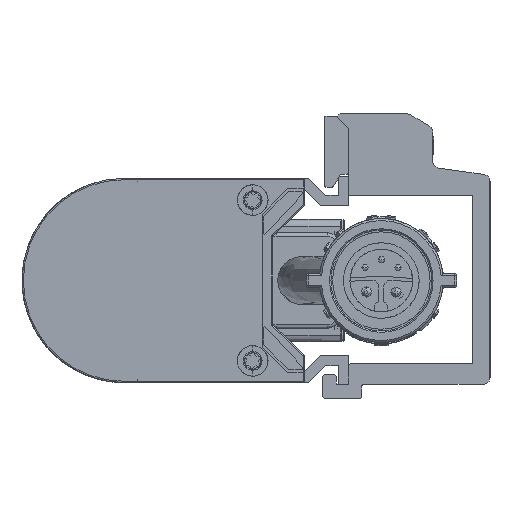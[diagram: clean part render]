
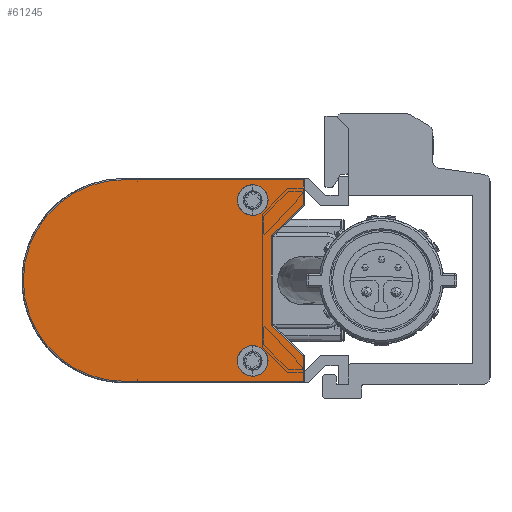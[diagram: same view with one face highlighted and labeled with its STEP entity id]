
A CAD part, left-side view. The second image highlights one B-rep face of the part: STEP entity #61245.
In plain terms, the highlighted planar face has unit normal (-1, 0, 0).
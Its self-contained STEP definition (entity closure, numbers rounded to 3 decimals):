
#359 = CARTESIAN_POINT ( 'NONE',  ( -750., 14.134, -9.55 ) ) ;
#615 = EDGE_CURVE ( 'NONE', #63553, #12300, #34675, .T. ) ;
#1647 = CIRCLE ( 'NONE', #50920, 2.25 ) ;
#3103 = EDGE_LOOP ( 'NONE', ( #57607, #13470 ) ) ;
#3741 = CARTESIAN_POINT ( 'NONE',  ( -750., 6.7, 14.8 ) ) ;
#3957 = FACE_BOUND ( 'NONE', #12427, .T. ) ;
#4220 = EDGE_CURVE ( 'NONE', #43060, #14392, #26542, .T. ) ;
#4520 = VERTEX_POINT ( 'NONE', #7046 ) ;
#4706 = EDGE_CURVE ( 'NONE', #56313, #48163, #20625, .T. ) ;
#4824 = DIRECTION ( 'NONE',  ( 0., 1., 0. ) ) ;
#4927 = FACE_BOUND ( 'NONE', #3103, .T. ) ;
#5455 = DIRECTION ( 'NONE',  ( 0., 0., 1. ) ) ;
#5512 = VECTOR ( 'NONE', #5455, 1000. ) ;
#5570 = DIRECTION ( 'NONE',  ( 0., 0., 1. ) ) ;
#6551 = LINE ( 'NONE', #50792, #9400 ) ;
#6963 = CIRCLE ( 'NONE', #38423, 2.25 ) ;
#7046 = CARTESIAN_POINT ( 'NONE',  ( -750., 33., 14.8 ) ) ;
#7586 = CARTESIAN_POINT ( 'NONE',  ( -750., 33., -14.8 ) ) ;
#7975 = CARTESIAN_POINT ( 'NONE',  ( -750., 14.134, -14.05 ) ) ;
#8175 = CIRCLE ( 'NONE', #50044, 2.25 ) ;
#8636 = DIRECTION ( 'NONE',  ( -1., 0., 0. ) ) ;
#9266 = ORIENTED_EDGE ( 'NONE', *, *, #40815, .T. ) ;
#9400 = VECTOR ( 'NONE', #26603, 1000. ) ;
#9702 = ORIENTED_EDGE ( 'NONE', *, *, #42378, .T. ) ;
#10394 = CARTESIAN_POINT ( 'NONE',  ( -750., 6.7, -14.8 ) ) ;
#11972 = DIRECTION ( 'NONE',  ( 0., 0., 1. ) ) ;
#12233 = AXIS2_PLACEMENT_3D ( 'NONE', #52271, #24363, #44310 ) ;
#12300 = VERTEX_POINT ( 'NONE', #44204 ) ;
#12427 = EDGE_LOOP ( 'NONE', ( #18139, #64632 ) ) ;
#13198 = EDGE_CURVE ( 'NONE', #57943, #56313, #29564, .T. ) ;
#13470 = ORIENTED_EDGE ( 'NONE', *, *, #45766, .F. ) ;
#13627 = LINE ( 'NONE', #48067, #58755 ) ;
#14392 = VERTEX_POINT ( 'NONE', #38223 ) ;
#15743 = AXIS2_PLACEMENT_3D ( 'NONE', #25340, #45290, #29581 ) ;
#16073 = CARTESIAN_POINT ( 'NONE',  ( -750., 6.7, 11.135 ) ) ;
#16113 = EDGE_CURVE ( 'NONE', #58408, #57399, #8175, .T. ) ;
#16338 = EDGE_CURVE ( 'NONE', #39467, #39930, #40643, .T. ) ;
#16475 = DIRECTION ( 'NONE',  ( 0., -0.718, -0.696 ) ) ;
#16808 = CARTESIAN_POINT ( 'NONE',  ( -750., 6.7, 14.8 ) ) ;
#18067 = CARTESIAN_POINT ( 'NONE',  ( -750., 6.7, -11.135 ) ) ;
#18139 = ORIENTED_EDGE ( 'NONE', *, *, #615, .F. ) ;
#18757 = DIRECTION ( 'NONE',  ( 0., 0., -1. ) ) ;
#20017 = AXIS2_PLACEMENT_3D ( 'NONE', #36621, #51637, #11972 ) ;
#20056 = CARTESIAN_POINT ( 'NONE',  ( -750., 14.134, -11.8 ) ) ;
#20625 = CIRCLE ( 'NONE', #12233, 0.4 ) ;
#21564 = ORIENTED_EDGE ( 'NONE', *, *, #16338, .F. ) ;
#23932 = ORIENTED_EDGE ( 'NONE', *, *, #62250, .F. ) ;
#24051 = FACE_OUTER_BOUND ( 'NONE', #59094, .T. ) ;
#24363 = DIRECTION ( 'NONE',  ( -1., 0., 0. ) ) ;
#25340 = CARTESIAN_POINT ( 'NONE',  ( -750., 27.25, 0. ) ) ;
#25573 = CARTESIAN_POINT ( 'NONE',  ( -750., 11.399, -6.415 ) ) ;
#26542 = LINE ( 'NONE', #51058, #53867 ) ;
#26603 = DIRECTION ( 'NONE',  ( 0., 0., 1. ) ) ;
#26842 = DIRECTION ( 'NONE',  ( 0., -1., 0. ) ) ;
#27940 = CARTESIAN_POINT ( 'NONE',  ( -750., 11.278, 6.703 ) ) ;
#28177 = DIRECTION ( 'NONE',  ( 0., 0., -1. ) ) ;
#28800 = CARTESIAN_POINT ( 'NONE',  ( -750., 14.134, -11.8 ) ) ;
#29564 = LINE ( 'NONE', #45913, #45611 ) ;
#29581 = DIRECTION ( 'NONE',  ( 0., 0., 1. ) ) ;
#30104 = LINE ( 'NONE', #10394, #5512 ) ;
#32343 = DIRECTION ( 'NONE',  ( 0., 1., 0. ) ) ;
#33264 = DIRECTION ( 'NONE',  ( 0., 0., -1. ) ) ;
#33589 = CARTESIAN_POINT ( 'NONE',  ( -750., 14.134, 11.8 ) ) ;
#34675 = CIRCLE ( 'NONE', #20017, 2.25 ) ;
#36300 = CARTESIAN_POINT ( 'NONE',  ( -750., 11.278, -6.703 ) ) ;
#36621 = CARTESIAN_POINT ( 'NONE',  ( -750., 14.134, 11.8 ) ) ;
#37467 = ORIENTED_EDGE ( 'NONE', *, *, #40868, .T. ) ;
#38223 = CARTESIAN_POINT ( 'NONE',  ( -750., 6.7, -14.8 ) ) ;
#38423 = AXIS2_PLACEMENT_3D ( 'NONE', #28800, #52990, #28177 ) ;
#38798 = CIRCLE ( 'NONE', #48227, 14.8 ) ;
#39075 = ORIENTED_EDGE ( 'NONE', *, *, #13198, .F. ) ;
#39467 = VERTEX_POINT ( 'NONE', #25573 ) ;
#39765 = ORIENTED_EDGE ( 'NONE', *, *, #4220, .T. ) ;
#39930 = VERTEX_POINT ( 'NONE', #36300 ) ;
#40643 = CIRCLE ( 'NONE', #45896, 0.4 ) ;
#40815 = EDGE_CURVE ( 'NONE', #58467, #4520, #57176, .T. ) ;
#40868 = EDGE_CURVE ( 'NONE', #57943, #58467, #13627, .T. ) ;
#41387 = LINE ( 'NONE', #61309, #59700 ) ;
#42378 = EDGE_CURVE ( 'NONE', #14392, #54431, #30104, .T. ) ;
#43060 = VERTEX_POINT ( 'NONE', #7586 ) ;
#44204 = CARTESIAN_POINT ( 'NONE',  ( -750., 14.134, 9.55 ) ) ;
#44310 = DIRECTION ( 'NONE',  ( 0., 0.696, 0.718 ) ) ;
#44958 = DIRECTION ( 'NONE',  ( -1., 0., 0. ) ) ;
#45197 = DIRECTION ( 'NONE',  ( -1., 0., 0. ) ) ;
#45290 = DIRECTION ( 'NONE',  ( -1., 0., 0. ) ) ;
#45541 = CARTESIAN_POINT ( 'NONE',  ( -750., 14.134, 14.05 ) ) ;
#45611 = VECTOR ( 'NONE', #55689, 1000. ) ;
#45766 = EDGE_CURVE ( 'NONE', #57399, #58408, #6963, .T. ) ;
#45896 = AXIS2_PLACEMENT_3D ( 'NONE', #49779, #45197, #4824 ) ;
#45913 = CARTESIAN_POINT ( 'NONE',  ( -750., 6.7, 11.135 ) ) ;
#47730 = ORIENTED_EDGE ( 'NONE', *, *, #4706, .F. ) ;
#48067 = CARTESIAN_POINT ( 'NONE',  ( -750., 6.7, 11.135 ) ) ;
#48163 = VERTEX_POINT ( 'NONE', #59010 ) ;
#48227 = AXIS2_PLACEMENT_3D ( 'NONE', #48900, #53785, #18757 ) ;
#48900 = CARTESIAN_POINT ( 'NONE',  ( -750., 33., 0. ) ) ;
#49779 = CARTESIAN_POINT ( 'NONE',  ( -750., 10.999, -6.415 ) ) ;
#50044 = AXIS2_PLACEMENT_3D ( 'NONE', #20056, #44958, #5570 ) ;
#50792 = CARTESIAN_POINT ( 'NONE',  ( -750., 11.399, -6.415 ) ) ;
#50920 = AXIS2_PLACEMENT_3D ( 'NONE', #33589, #8636, #33264 ) ;
#51058 = CARTESIAN_POINT ( 'NONE',  ( -750., 33., -14.8 ) ) ;
#51637 = DIRECTION ( 'NONE',  ( -1., 0., 0. ) ) ;
#52271 = CARTESIAN_POINT ( 'NONE',  ( -750., 10.999, 6.415 ) ) ;
#52990 = DIRECTION ( 'NONE',  ( -1., 0., 0. ) ) ;
#53344 = EDGE_CURVE ( 'NONE', #12300, #63553, #1647, .T. ) ;
#53785 = DIRECTION ( 'NONE',  ( 1., 0., 0. ) ) ;
#53792 = PLANE ( 'NONE',  #15743 ) ;
#53867 = VECTOR ( 'NONE', #26842, 1000. ) ;
#54431 = VERTEX_POINT ( 'NONE', #18067 ) ;
#54594 = VECTOR ( 'NONE', #32343, 1000. ) ;
#55689 = DIRECTION ( 'NONE',  ( 0., 0.718, -0.696 ) ) ;
#56313 = VERTEX_POINT ( 'NONE', #27940 ) ;
#57176 = LINE ( 'NONE', #3741, #54594 ) ;
#57399 = VERTEX_POINT ( 'NONE', #7975 ) ;
#57607 = ORIENTED_EDGE ( 'NONE', *, *, #16113, .F. ) ;
#57830 = DIRECTION ( 'NONE',  ( 0., 0., 1. ) ) ;
#57943 = VERTEX_POINT ( 'NONE', #16073 ) ;
#58408 = VERTEX_POINT ( 'NONE', #359 ) ;
#58467 = VERTEX_POINT ( 'NONE', #16808 ) ;
#58755 = VECTOR ( 'NONE', #57830, 1000. ) ;
#59010 = CARTESIAN_POINT ( 'NONE',  ( -750., 11.399, 6.415 ) ) ;
#59094 = EDGE_LOOP ( 'NONE', ( #39075, #37467, #9266, #60493, #39765, #9702, #23932, #21564, #61018, #47730 ) ) ;
#59700 = VECTOR ( 'NONE', #16475, 1000. ) ;
#59702 = EDGE_CURVE ( 'NONE', #39467, #48163, #6551, .T. ) ;
#60329 = EDGE_CURVE ( 'NONE', #43060, #4520, #38798, .T. ) ;
#60493 = ORIENTED_EDGE ( 'NONE', *, *, #60329, .F. ) ;
#61018 = ORIENTED_EDGE ( 'NONE', *, *, #59702, .T. ) ;
#61245 = ADVANCED_FACE ( 'NONE', ( #3957, #4927, #24051 ), #53792, .T. ) ;
#61309 = CARTESIAN_POINT ( 'NONE',  ( -750., 11.278, -6.703 ) ) ;
#62250 = EDGE_CURVE ( 'NONE', #39930, #54431, #41387, .T. ) ;
#63553 = VERTEX_POINT ( 'NONE', #45541 ) ;
#64632 = ORIENTED_EDGE ( 'NONE', *, *, #53344, .F. ) ;
